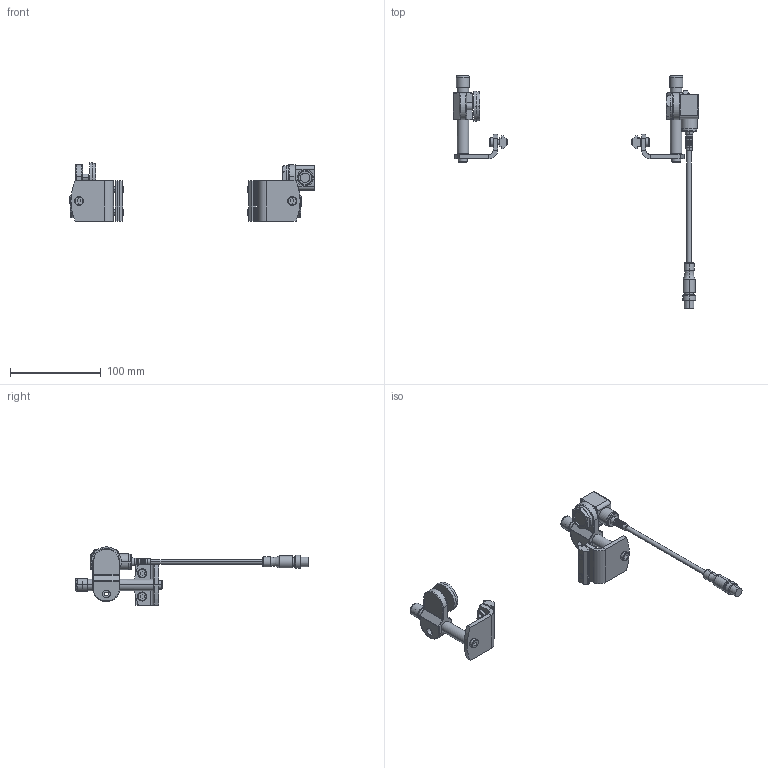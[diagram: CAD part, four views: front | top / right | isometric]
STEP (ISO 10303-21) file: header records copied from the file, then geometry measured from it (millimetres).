
FILE_DESCRIPTION((''),'2;1');
FILE_NAME('75M-PE_ASM','2016-11-02T',('jenni.wallner'),(''),'PRO/ENGINEER BY PARAMETRIC TECHNOLOGY CORPORATION, 2012420','PRO/ENGINEER BY PARAMETRIC TECHNOLOGY CORPORATION, 2012420','');
FILE_SCHEMA(('CONFIG_CONTROL_DESIGN'));
Length unit declared in the file: inch
Products named in the file (13): 202004M; 201104; 920692M; 920693M; 200830M; 807-948; 807-1390; 807-1391; 809-315; 809-289; 201108_ASM; 75M-PE-1_ASM; 75M-PE_ASM
Assembly tree (20 placements, depth 4):
  75M-PE_ASM
    75M-PE-1_ASM
      202004M  x2
      201104  x2
      920692M  x2
      920693M  x4
      200830M  x2
      807-948  x2
      201108_ASM
        807-1390
        807-1391
        809-315
        809-289
Bounding box: 269.52 x 256.38 x 64.14 mm (x, y, z)
Volume: 123504.9 mm3; surface area: 62913.8 mm2
Topology: 19 solids, 27 shells, 536 faces, 1203 edges, 739 vertices
Faces by surface type: cylinder 223, plane 207, cone 44, bspline 30, torus 28, sphere 4
Entity records: 12777 total; most frequent: CARTESIAN_POINT 4021, DIRECTION 1888, ORIENTED_EDGE 1650, EDGE_CURVE 835, AXIS2_PLACEMENT_3D 747, VERTEX_POINT 506, EDGE_LOOP 429, VECTOR 394
